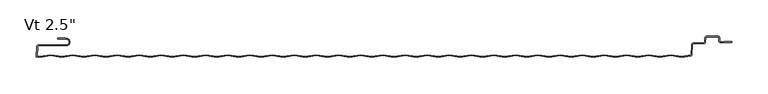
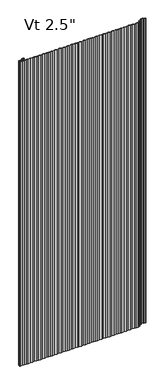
"""IFC4 building model written with IfcOpenShell, lengths in millimetres: plate geometry."""

from ifc_helpers import new_model, si_unit, point, frame, origin, place, context, project, spatial, polyline, circle_curve, ellipse_curve, trimmed, source, transform, mapped, element, save
from ifc_brep_helpers import plane_surface, cylinder_surface, revolved_surface, extruded_surface, advanced_brep


def plate_575d542c(model_context):
    return source(origin(), model_context, "Body", "AdvancedBrep", [
        advanced_brep(
        [(-480.4252049, -38.1, 2400.0), (-480.4252049, -39.6875, 2400.0), (-469.1142674, -39.6875, 2400.0), (-469.1142674, -47.625, 2400.0), (-507.2975721, -47.625, 2400.0), (-509.6755586, -49.881625, 2400.0), (-510.41832, -64.0543553, 2400.0), (-506.0646686, -64.7509395, 2400.0), (-490.8246686, -62.3125395, 2400.0), (-475.5846686, -64.7509395, 2400.0), (-460.3446686, -62.3125395, 2400.0), (-445.1046686, -64.7509395, 2400.0), (-429.8646686, -62.3125395, 2400.0), (-414.6246686, -64.7509395, 2400.0), (-399.3846686, -62.3125395, 2400.0), (-384.1446686, -64.7509395, 2400.0), (-368.9046686, -62.3125395, 2400.0), (-353.6646686, -64.7509395, 2400.0), (-338.4246686, -62.3125395, 2400.0), (-323.1846686, -64.7509395, 2400.0), (-307.9446686, -62.3125395, 2400.0), (-292.7046686, -64.7509395, 2400.0), (-277.4646686, -62.3125395, 2400.0), (-262.2246686, -64.7509395, 2400.0), (-246.9846686, -62.3125395, 2400.0), (-231.7446686, -64.7509395, 2400.0), (-216.5046686, -62.3125395, 2400.0), (-201.2646686, -64.7509395, 2400.0), (-186.0246686, -62.3125395, 2400.0), (-170.7846686, -64.7509395, 2400.0), (-155.5446686, -62.3125395, 2400.0), (-140.3046686, -64.7509395, 2400.0), (-125.0646686, -62.3125395, 2400.0), (-109.8246686, -64.7509395, 2400.0), (-94.5846686, -62.3125395, 2400.0), (-79.3446686, -64.7509395, 2400.0), (-64.1046686, -62.3125395, 2400.0), (-48.8646686, -64.7509395, 2400.0), (-33.6246686, -62.3125395, 2400.0), (-18.3846686, -64.7509395, 2400.0), (-3.1446686, -62.3125395, 2400.0), (12.0953314, -64.7509395, 2400.0), (27.3353314, -62.3125395, 2400.0), (42.5753314, -64.7509395, 2400.0), (57.8153314, -62.3125395, 2400.0), (73.0553314, -64.7509395, 2400.0), (88.2953314, -62.3125395, 2400.0), (103.5353314, -64.7509395, 2400.0), (118.7753314, -62.3125395, 2400.0), (134.0153314, -64.7509395, 2400.0), (149.2553314, -62.3125395, 2400.0), (164.4953314, -64.7509395, 2400.0), (179.7353314, -62.3125395, 2400.0), (194.9753314, -64.7509395, 2400.0), (210.2153314, -62.3125395, 2400.0), (225.4553314, -64.7509395, 2400.0), (240.6953314, -62.3125395, 2400.0), (255.9353314, -64.7509395, 2400.0), (271.1753314, -62.3125395, 2400.0), (286.4153314, -64.7509395, 2400.0), (301.6553314, -62.3125395, 2400.0), (316.8953314, -64.7509395, 2400.0), (332.1353314, -62.3125395, 2400.0), (347.3753314, -64.7509395, 2400.0), (362.6153314, -62.3125395, 2400.0), (377.6527639, -64.7185287, 2400.0), (390.0944828, -62.7278537, 2400.0), (391.4289973, -61.243375, 2400.0), (392.1470603, -47.5419167, 2400.0), (393.7323847, -46.0375, 2400.0), (407.8886911, -46.0375, 2400.0), (410.2666776, -43.780875, 2400.0), (410.5687539, -38.0169167, 2400.0), (412.1540783, -36.5125, 2400.0), (427.0294826, -36.5125, 2400.0), (428.6169826, -38.1, 2400.0), (428.6169826, -42.2671875, 2400.0), (430.9982326, -44.6484375, 2400.0), (445.4898532, -44.6484375, 2400.0), (445.4898532, -42.8546875, 2400.0), (435.7607326, -42.8546875, 2400.0), (435.7607326, -43.6484375, 2400.0), (430.9982326, -43.6484375, 2400.0), (429.6169826, -42.2671875, 2400.0), (429.6169826, -38.1, 2400.0), (427.0294826, -35.5125, 2400.0), (412.1540783, -35.5125, 2400.0), (409.5701244, -37.9645807, 2400.0), (409.2680481, -43.728539, 2400.0), (407.8886911, -45.0375, 2400.0), (393.7323847, -45.0375, 2400.0), (391.1484307, -47.4895807, 2400.0), (390.4303677, -61.191039, 2400.0), (389.9364923, -61.740413, 2400.0), (377.6527639, -63.7058096, 2400.0), (362.6153314, -61.2998204, 2400.0), (347.3753314, -63.7382204, 2400.0), (332.1353314, -61.2998204, 2400.0), (316.8953314, -63.7382204, 2400.0), (301.6553314, -61.2998204, 2400.0), (286.4153314, -63.7382204, 2400.0), (271.1753314, -61.2998204, 2400.0), (255.9353314, -63.7382204, 2400.0), (240.6953314, -61.2998204, 2400.0), (225.4553314, -63.7382204, 2400.0), (210.2153314, -61.2998204, 2400.0), (194.9753314, -63.7382204, 2400.0), (179.7353314, -61.2998204, 2400.0), (164.4953314, -63.7382204, 2400.0), (149.2553314, -61.2998204, 2400.0), (134.0153314, -63.7382204, 2400.0), (118.7753314, -61.2998204, 2400.0), (103.5353314, -63.7382204, 2400.0), (88.2953314, -61.2998204, 2400.0), (73.0553314, -63.7382204, 2400.0), (57.8153314, -61.2998204, 2400.0), (42.5753314, -63.7382204, 2400.0), (27.3353314, -61.2998204, 2400.0), (12.0953314, -63.7382204, 2400.0), (-3.1446686, -61.2998204, 2400.0), (-18.3846686, -63.7382204, 2400.0), (-33.6246686, -61.2998204, 2400.0), (-48.8646686, -63.7382204, 2400.0), (-64.1046686, -61.2998204, 2400.0), (-79.3446686, -63.7382204, 2400.0), (-94.5846686, -61.2998204, 2400.0), (-109.8246686, -63.7382204, 2400.0), (-125.0646686, -61.2998204, 2400.0), (-140.3046686, -63.7382204, 2400.0), (-155.5446686, -61.2998204, 2400.0), (-170.7846686, -63.7382204, 2400.0), (-186.0246686, -61.2998204, 2400.0), (-201.2646686, -63.7382204, 2400.0), (-216.5046686, -61.2998204, 2400.0), (-231.7446686, -63.7382204, 2400.0), (-246.9846686, -61.2998204, 2400.0), (-262.2246686, -63.7382204, 2400.0), (-277.4646686, -61.2998204, 2400.0), (-292.7046686, -63.7382204, 2400.0), (-307.9446686, -61.2998204, 2400.0), (-323.1846686, -63.7382204, 2400.0), (-338.4246686, -61.2998204, 2400.0), (-353.6646686, -63.7382204, 2400.0), (-368.9046686, -61.2998204, 2400.0), (-384.1446686, -63.7382204, 2400.0), (-399.3846686, -61.2998204, 2400.0), (-414.6246686, -63.7382204, 2400.0), (-429.8646686, -61.2998204, 2400.0), (-445.1046686, -63.7382204, 2400.0), (-460.3446686, -61.2998204, 2400.0), (-475.5846686, -63.7382204, 2400.0), (-490.8246686, -61.2998204, 2400.0), (-506.0646686, -63.7382204, 2400.0), (-509.3726415, -63.2089447, 2400.0), (-508.6769291, -49.933961, 2400.0), (-507.2975721, -48.625, 2400.0), (-469.1142674, -48.625, 2400.0), (-469.1142674, -38.6875, 2400.0), (-470.7017674, -38.89375, 2400.0), (-470.7017674, -38.1, 2400.0), (-480.4252049, -38.1, 0.0), (-470.7017674, -38.1, 0.0), (-470.7017674, -38.89375, 0.0), (-469.1142674, -38.6875, 0.0), (-469.1142674, -48.625, 0.0), (-507.2975721, -48.625, 0.0), (-508.6769291, -49.933961, 0.0), (-509.3726415, -63.2089447, 0.0), (-506.0646686, -63.7382204, 0.0), (-490.8246686, -61.2998204, 0.0), (-475.5846686, -63.7382204, 0.0), (-460.3446686, -61.2998204, 0.0), (-445.1046686, -63.7382204, 0.0), (-429.8646686, -61.2998204, 0.0), (-414.6246686, -63.7382204, 0.0), (-399.3846686, -61.2998204, 0.0), (-384.1446686, -63.7382204, 0.0), (-368.9046686, -61.2998204, 0.0), (-353.6646686, -63.7382204, 0.0), (-338.4246686, -61.2998204, 0.0), (-323.1846686, -63.7382204, 0.0), (-307.9446686, -61.2998204, 0.0), (-292.7046686, -63.7382204, 0.0), (-277.4646686, -61.2998204, 0.0), (-262.2246686, -63.7382204, 0.0), (-246.9846686, -61.2998204, 0.0), (-231.7446686, -63.7382204, 0.0), (-216.5046686, -61.2998204, 0.0), (-201.2646686, -63.7382204, 0.0), (-186.0246686, -61.2998204, 0.0), (-170.7846686, -63.7382204, 0.0), (-155.5446686, -61.2998204, 0.0), (-140.3046686, -63.7382204, 0.0), (-125.0646686, -61.2998204, 0.0), (-109.8246686, -63.7382204, 0.0), (-94.5846686, -61.2998204, 0.0), (-79.3446686, -63.7382204, 0.0), (-64.1046686, -61.2998204, 0.0), (-48.8646686, -63.7382204, 0.0), (-33.6246686, -61.2998204, 0.0), (-18.3846686, -63.7382204, 0.0), (-3.1446686, -61.2998204, 0.0), (12.0953314, -63.7382204, 0.0), (27.3353314, -61.2998204, 0.0), (42.5753314, -63.7382204, 0.0), (57.8153314, -61.2998204, 0.0), (73.0553314, -63.7382204, 0.0), (88.2953314, -61.2998204, 0.0), (103.5353314, -63.7382204, 0.0), (118.7753314, -61.2998204, 0.0), (134.0153314, -63.7382204, 0.0), (149.2553314, -61.2998204, 0.0), (164.4953314, -63.7382204, 0.0), (179.7353314, -61.2998204, 0.0), (194.9753314, -63.7382204, 0.0), (210.2153314, -61.2998204, 0.0), (225.4553314, -63.7382204, 0.0), (240.6953314, -61.2998204, 0.0), (255.9353314, -63.7382204, 0.0), (271.1753314, -61.2998204, 0.0), (286.4153314, -63.7382204, 0.0), (301.6553314, -61.2998204, 0.0), (316.8953314, -63.7382204, 0.0), (332.1353314, -61.2998204, 0.0), (347.3753314, -63.7382204, 0.0), (362.6153314, -61.2998204, 0.0), (377.6527639, -63.7058096, 0.0), (389.9364923, -61.740413, 0.0), (390.4303677, -61.191039, 0.0), (391.1484307, -47.4895807, 0.0), (393.7323847, -45.0375, 0.0), (407.8886911, -45.0375, 0.0), (409.2680481, -43.728539, 0.0), (409.5701244, -37.9645807, 0.0), (412.1540783, -35.5125, 0.0), (427.0294826, -35.5125, 0.0), (429.6169826, -38.1, 0.0), (429.6169826, -42.2671875, 0.0), (430.9982326, -43.6484375, 0.0), (435.7607326, -43.6484375, 0.0), (435.7607326, -42.8546875, 0.0), (445.4898532, -42.8546875, 0.0), (445.4898532, -44.6484375, 0.0), (430.9982326, -44.6484375, 0.0), (428.6169826, -42.2671875, 0.0), (428.6169826, -38.1, 0.0), (427.0294826, -36.5125, 0.0), (412.1540783, -36.5125, 0.0), (410.5687539, -38.0169167, 0.0), (410.2666776, -43.780875, 0.0), (407.8886911, -46.0375, 0.0), (393.7323847, -46.0375, 0.0), (392.1470603, -47.5419167, 0.0), (391.4289973, -61.243375, 0.0), (390.0944828, -62.7278537, 0.0), (377.6527639, -64.7185287, 0.0), (362.6153314, -62.3125395, 0.0), (347.3753314, -64.7509395, 0.0), (332.1353314, -62.3125395, 0.0), (316.8953314, -64.7509395, 0.0), (301.6553314, -62.3125395, 0.0), (286.4153314, -64.7509395, 0.0), (271.1753314, -62.3125395, 0.0), (255.9353314, -64.7509395, 0.0), (240.6953314, -62.3125395, 0.0), (225.4553314, -64.7509395, 0.0), (210.2153314, -62.3125395, 0.0), (194.9753314, -64.7509395, 0.0), (179.7353314, -62.3125395, 0.0), (164.4953314, -64.7509395, 0.0), (149.2553314, -62.3125395, 0.0), (134.0153314, -64.7509395, 0.0), (118.7753314, -62.3125395, 0.0), (103.5353314, -64.7509395, 0.0), (88.2953314, -62.3125395, 0.0), (73.0553314, -64.7509395, 0.0), (57.8153314, -62.3125395, 0.0), (42.5753314, -64.7509395, 0.0), (27.3353314, -62.3125395, 0.0), (12.0953314, -64.7509395, 0.0), (-3.1446686, -62.3125395, 0.0), (-18.3846686, -64.7509395, 0.0), (-33.6246686, -62.3125395, 0.0), (-48.8646686, -64.7509395, 0.0), (-64.1046686, -62.3125395, 0.0), (-79.3446686, -64.7509395, 0.0), (-94.5846686, -62.3125395, 0.0), (-109.8246686, -64.7509395, 0.0), (-125.0646686, -62.3125395, 0.0), (-140.3046686, -64.7509395, 0.0), (-155.5446686, -62.3125395, 0.0), (-170.7846686, -64.7509395, 0.0), (-186.0246686, -62.3125395, 0.0), (-201.2646686, -64.7509395, 0.0), (-216.5046686, -62.3125395, 0.0), (-231.7446686, -64.7509395, 0.0), (-246.9846686, -62.3125395, 0.0), (-262.2246686, -64.7509395, 0.0), (-277.4646686, -62.3125395, 0.0), (-292.7046686, -64.7509395, 0.0), (-307.9446686, -62.3125395, 0.0), (-323.1846686, -64.7509395, 0.0), (-338.4246686, -62.3125395, 0.0), (-353.6646686, -64.7509395, 0.0), (-368.9046686, -62.3125395, 0.0), (-384.1446686, -64.7509395, 0.0), (-399.3846686, -62.3125395, 0.0), (-414.6246686, -64.7509395, 0.0), (-429.8646686, -62.3125395, 0.0), (-445.1046686, -64.7509395, 0.0), (-460.3446686, -62.3125395, 0.0), (-475.5846686, -64.7509395, 0.0), (-490.8246686, -62.3125395, 0.0), (-506.0646686, -64.7509395, 0.0), (-510.41832, -64.0543553, 0.0), (-509.6755586, -49.881625, 0.0), (-507.2975721, -47.625, 0.0), (-469.1142674, -47.625, 0.0), (-469.1142674, -39.6875, 0.0), (-480.4252049, -39.6875, 0.0)],
        [
            (0, 1, circle_curve(frame((-480.4252049, -38.89375, 2400.0), z_axis=(0.0, 0.0, 1.0), x_axis=(1.0, 0.0, 0.0)), 0.79375)),
            (1, 2),
            (2, 3, circle_curve(frame((-469.1142674, -43.65625, 2400.0), z_axis=(0.0, 0.0, -1.0), x_axis=(1.0, 0.0, 0.0)), 3.96875)),
            (3, 4),
            (4, 5, circle_curve(frame((-507.2975721, -50.00625, 2400.0), z_axis=(0.0, 0.0, 1.0), x_axis=(1.0, 0.0, 0.0)), 2.38125)),
            (5, 6),
            (6, 7),
            (7, 8),
            (8, 9),
            (9, 10),
            (10, 11),
            (11, 12),
            (12, 13),
            (13, 14),
            (14, 15),
            (15, 16),
            (16, 17),
            (17, 18),
            (18, 19),
            (19, 20),
            (20, 21),
            (21, 22),
            (22, 23),
            (23, 24),
            (24, 25),
            (25, 26),
            (26, 27),
            (27, 28),
            (28, 29),
            (29, 30),
            (30, 31),
            (31, 32),
            (32, 33),
            (33, 34),
            (34, 35),
            (35, 36),
            (36, 37),
            (37, 38),
            (38, 39),
            (39, 40),
            (40, 41),
            (41, 42),
            (42, 43),
            (43, 44),
            (44, 45),
            (45, 46),
            (46, 47),
            (47, 48),
            (48, 49),
            (49, 50),
            (50, 51),
            (51, 52),
            (52, 53),
            (53, 54),
            (54, 55),
            (55, 56),
            (56, 57),
            (57, 58),
            (58, 59),
            (59, 60),
            (60, 61),
            (61, 62),
            (62, 63),
            (63, 64),
            (64, 65),
            (65, 66),
            (66, 67, circle_curve(frame((389.8436729, -61.1602917, 2400.0), z_axis=(0.0, 0.0, 1.0), x_axis=(1.0, 0.0, 0.0)), 1.5875)),
            (67, 68),
            (68, 69, circle_curve(frame((393.7323847, -47.625, 2400.0), z_axis=(0.0, 0.0, -1.0), x_axis=(1.0, 0.0, 0.0)), 1.5875)),
            (69, 70),
            (70, 71, circle_curve(frame((407.8886911, -43.65625, 2400.0), z_axis=(0.0, 0.0, 1.0), x_axis=(1.0, 0.0, 0.0)), 2.38125)),
            (71, 72),
            (72, 73, circle_curve(frame((412.1540783, -38.1, 2400.0), z_axis=(0.0, 0.0, -1.0), x_axis=(1.0, 0.0, 0.0)), 1.5875)),
            (73, 74),
            (74, 75, circle_curve(frame((427.0294826, -38.1, 2400.0), z_axis=(0.0, 0.0, -1.0), x_axis=(1.0, 0.0, 0.0)), 1.5875)),
            (75, 76),
            (76, 77, circle_curve(frame((430.9982326, -42.2671875, 2400.0), z_axis=(0.0, 0.0, 1.0), x_axis=(1.0, 0.0, 0.0)), 2.38125)),
            (77, 78),
            (78, 79, ellipse_curve(frame((445.4898532, -43.7515625, 2400.0), z_axis=(0.0, 0.0, 1.0), x_axis=(0.0, 1.0, 0.0)), 0.896875, 0.7852275)),
            (79, 80),
            (80, 81),
            (81, 82),
            (82, 83, circle_curve(frame((430.9982326, -42.2671875, 2400.0), z_axis=(0.0, 0.0, -1.0), x_axis=(1.0, 0.0, 0.0)), 1.38125)),
            (83, 84),
            (84, 85, circle_curve(frame((427.0294826, -38.1, 2400.0), z_axis=(0.0, 0.0, 1.0), x_axis=(1.0, 0.0, 0.0)), 2.5875)),
            (85, 86),
            (86, 87, circle_curve(frame((412.1540783, -38.1, 2400.0), z_axis=(0.0, 0.0, 1.0), x_axis=(1.0, 0.0, 0.0)), 2.5875)),
            (87, 88),
            (88, 89, circle_curve(frame((407.8886911, -43.65625, 2400.0), z_axis=(0.0, 0.0, -1.0), x_axis=(1.0, 0.0, 0.0)), 1.38125)),
            (89, 90),
            (90, 91, circle_curve(frame((393.7323847, -47.625, 2400.0), z_axis=(0.0, 0.0, 1.0), x_axis=(1.0, 0.0, 0.0)), 2.5875)),
            (91, 92),
            (92, 93, circle_curve(frame((389.8436729, -61.1602917, 2400.0), z_axis=(0.0, 0.0, -1.0), x_axis=(1.0, 0.0, 0.0)), 0.5875)),
            (93, 94),
            (94, 95),
            (95, 96),
            (96, 97),
            (97, 98),
            (98, 99),
            (99, 100),
            (100, 101),
            (101, 102),
            (102, 103),
            (103, 104),
            (104, 105),
            (105, 106),
            (106, 107),
            (107, 108),
            (108, 109),
            (109, 110),
            (110, 111),
            (111, 112),
            (112, 113),
            (113, 114),
            (114, 115),
            (115, 116),
            (116, 117),
            (117, 118),
            (118, 119),
            (119, 120),
            (120, 121),
            (121, 122),
            (122, 123),
            (123, 124),
            (124, 125),
            (125, 126),
            (126, 127),
            (127, 128),
            (128, 129),
            (129, 130),
            (130, 131),
            (131, 132),
            (132, 133),
            (133, 134),
            (134, 135),
            (135, 136),
            (136, 137),
            (137, 138),
            (138, 139),
            (139, 140),
            (140, 141),
            (141, 142),
            (142, 143),
            (143, 144),
            (144, 145),
            (145, 146),
            (146, 147),
            (147, 148),
            (148, 149),
            (149, 150),
            (150, 151),
            (151, 152),
            (152, 153),
            (153, 154),
            (154, 155, circle_curve(frame((-507.2975721, -50.00625, 2400.0), z_axis=(0.0, 0.0, -1.0), x_axis=(1.0, 0.0, 0.0)), 1.38125)),
            (155, 156),
            (156, 157, circle_curve(frame((-469.1142674, -43.65625, 2400.0), z_axis=(0.0, 0.0, 1.0), x_axis=(1.0, 0.0, 0.0)), 4.96875)),
            (157, 158),
            (158, 159),
            (159, 0),
            (160, 161),
            (161, 162),
            (162, 163),
            (163, 164, circle_curve(frame((-469.1142674, -43.65625, 0.0), z_axis=(0.0, 0.0, -1.0), x_axis=(1.0, 0.0, 0.0)), 4.96875)),
            (164, 165),
            (165, 166, circle_curve(frame((-507.2975721, -50.00625, 0.0), z_axis=(0.0, 0.0, 1.0), x_axis=(1.0, 0.0, 0.0)), 1.38125)),
            (166, 167),
            (167, 168),
            (168, 169),
            (169, 170),
            (170, 171),
            (171, 172),
            (172, 173),
            (173, 174),
            (174, 175),
            (175, 176),
            (176, 177),
            (177, 178),
            (178, 179),
            (179, 180),
            (180, 181),
            (181, 182),
            (182, 183),
            (183, 184),
            (184, 185),
            (185, 186),
            (186, 187),
            (187, 188),
            (188, 189),
            (189, 190),
            (190, 191),
            (191, 192),
            (192, 193),
            (193, 194),
            (194, 195),
            (195, 196),
            (196, 197),
            (197, 198),
            (198, 199),
            (199, 200),
            (200, 201),
            (201, 202),
            (202, 203),
            (203, 204),
            (204, 205),
            (205, 206),
            (206, 207),
            (207, 208),
            (208, 209),
            (209, 210),
            (210, 211),
            (211, 212),
            (212, 213),
            (213, 214),
            (214, 215),
            (215, 216),
            (216, 217),
            (217, 218),
            (218, 219),
            (219, 220),
            (220, 221),
            (221, 222),
            (222, 223),
            (223, 224),
            (224, 225),
            (225, 226),
            (226, 227),
            (227, 228, circle_curve(frame((389.8436729, -61.1602917, 0.0), z_axis=(0.0, 0.0, 1.0), x_axis=(1.0, 0.0, 0.0)), 0.5875)),
            (228, 229),
            (229, 230, circle_curve(frame((393.7323847, -47.625, 0.0), z_axis=(0.0, 0.0, -1.0), x_axis=(1.0, 0.0, 0.0)), 2.5875)),
            (230, 231),
            (231, 232, circle_curve(frame((407.8886911, -43.65625, 0.0), z_axis=(0.0, 0.0, 1.0), x_axis=(1.0, 0.0, 0.0)), 1.38125)),
            (232, 233),
            (233, 234, circle_curve(frame((412.1540783, -38.1, 0.0), z_axis=(0.0, 0.0, -1.0), x_axis=(1.0, 0.0, 0.0)), 2.5875)),
            (234, 235),
            (235, 236, circle_curve(frame((427.0294826, -38.1, 0.0), z_axis=(0.0, 0.0, -1.0), x_axis=(1.0, 0.0, 0.0)), 2.5875)),
            (236, 237),
            (237, 238, circle_curve(frame((430.9982326, -42.2671875, 0.0), z_axis=(0.0, 0.0, 1.0), x_axis=(1.0, 0.0, 0.0)), 1.38125)),
            (238, 239),
            (239, 240),
            (240, 241),
            (241, 242, ellipse_curve(frame((445.4898532, -43.7515625, 0.0), z_axis=(0.0, 0.0, -1.0), x_axis=(0.0, 1.0, 0.0)), 0.896875, 0.7852275)),
            (242, 243),
            (243, 244, circle_curve(frame((430.9982326, -42.2671875, 0.0), z_axis=(0.0, 0.0, -1.0), x_axis=(1.0, 0.0, 0.0)), 2.38125)),
            (244, 245),
            (245, 246, circle_curve(frame((427.0294826, -38.1, 0.0), z_axis=(0.0, 0.0, 1.0), x_axis=(1.0, 0.0, 0.0)), 1.5875)),
            (246, 247),
            (247, 248, circle_curve(frame((412.1540783, -38.1, 0.0), z_axis=(0.0, 0.0, 1.0), x_axis=(1.0, 0.0, 0.0)), 1.5875)),
            (248, 249),
            (249, 250, circle_curve(frame((407.8886911, -43.65625, 0.0), z_axis=(0.0, 0.0, -1.0), x_axis=(1.0, 0.0, 0.0)), 2.38125)),
            (250, 251),
            (251, 252, circle_curve(frame((393.7323847, -47.625, 0.0), z_axis=(0.0, 0.0, 1.0), x_axis=(1.0, 0.0, 0.0)), 1.5875)),
            (252, 253),
            (253, 254, circle_curve(frame((389.8436729, -61.1602917, 0.0), z_axis=(0.0, 0.0, -1.0), x_axis=(1.0, 0.0, 0.0)), 1.5875)),
            (254, 255),
            (255, 256),
            (256, 257),
            (257, 258),
            (258, 259),
            (259, 260),
            (260, 261),
            (261, 262),
            (262, 263),
            (263, 264),
            (264, 265),
            (265, 266),
            (266, 267),
            (267, 268),
            (268, 269),
            (269, 270),
            (270, 271),
            (271, 272),
            (272, 273),
            (273, 274),
            (274, 275),
            (275, 276),
            (276, 277),
            (277, 278),
            (278, 279),
            (279, 280),
            (280, 281),
            (281, 282),
            (282, 283),
            (283, 284),
            (284, 285),
            (285, 286),
            (286, 287),
            (287, 288),
            (288, 289),
            (289, 290),
            (290, 291),
            (291, 292),
            (292, 293),
            (293, 294),
            (294, 295),
            (295, 296),
            (296, 297),
            (297, 298),
            (298, 299),
            (299, 300),
            (300, 301),
            (301, 302),
            (302, 303),
            (303, 304),
            (304, 305),
            (305, 306),
            (306, 307),
            (307, 308),
            (308, 309),
            (309, 310),
            (310, 311),
            (311, 312),
            (312, 313),
            (313, 314),
            (314, 315),
            (315, 316, circle_curve(frame((-507.2975721, -50.00625, 0.0), z_axis=(0.0, 0.0, -1.0), x_axis=(1.0, 0.0, 0.0)), 2.38125)),
            (316, 317),
            (317, 318, circle_curve(frame((-469.1142674, -43.65625, 0.0), z_axis=(0.0, 0.0, 1.0), x_axis=(1.0, 0.0, 0.0)), 3.96875)),
            (318, 319),
            (319, 160, circle_curve(frame((-480.4252049, -38.89375, 0.0), z_axis=(0.0, 0.0, -1.0), x_axis=(1.0, 0.0, 0.0)), 0.79375)),
            (159, 161),
            (160, 0),
            (319, 1),
            (318, 2),
            (317, 3),
            (316, 4),
            (315, 5),
            (314, 6),
            (68, 252),
            (251, 69),
            (250, 70),
            (249, 71),
            (248, 72),
            (247, 73),
            (154, 166),
            (165, 155),
            (90, 230),
            (229, 91),
            (89, 231),
            (88, 232),
            (87, 233),
            (86, 234),
            (81, 239),
            (238, 82),
            (237, 83),
            (236, 84),
            (246, 74),
            (245, 75),
            (244, 76),
            (243, 77),
            (242, 78),
            (85, 235),
            (164, 156),
            (163, 157),
            (158, 162),
            (80, 240),
            (79, 241),
            (95, 225),
            (224, 96),
            (223, 97),
            (222, 98),
            (221, 99),
            (220, 100),
            (219, 101),
            (218, 102),
            (217, 103),
            (216, 104),
            (215, 105),
            (214, 106),
            (213, 107),
            (212, 108),
            (211, 109),
            (147, 173),
            (172, 148),
            (171, 149),
            (170, 150),
            (169, 151),
            (168, 152),
            (167, 153),
            (313, 7),
            (312, 8),
            (311, 9),
            (310, 10),
            (309, 11),
            (308, 12),
            (36, 284),
            (283, 37),
            (282, 38),
            (50, 270),
            (269, 51),
            (268, 52),
            (267, 53),
            (266, 54),
            (265, 55),
            (264, 56),
            (263, 57),
            (262, 58),
            (261, 59),
            (260, 60),
            (259, 61),
            (258, 62),
            (257, 63),
            (256, 64),
            (65, 255),
            (254, 66),
            (253, 67),
            (92, 228),
            (227, 93),
            (226, 94),
            (123, 197),
            (196, 124),
            (195, 125),
            (194, 126),
            (49, 271),
            (48, 272),
            (47, 273),
            (46, 274),
            (45, 275),
            (44, 276),
            (43, 277),
            (42, 278),
            (41, 279),
            (40, 280),
            (39, 281),
            (122, 198),
            (121, 199),
            (120, 200),
            (119, 201),
            (118, 202),
            (117, 203),
            (116, 204),
            (115, 205),
            (114, 206),
            (113, 207),
            (112, 208),
            (111, 209),
            (110, 210),
            (135, 185),
            (184, 136),
            (183, 137),
            (193, 127),
            (192, 128),
            (191, 129),
            (130, 190),
            (189, 131),
            (188, 132),
            (133, 187),
            (186, 134),
            (22, 298),
            (297, 23),
            (24, 296),
            (295, 25),
            (294, 26),
            (293, 27),
            (292, 28),
            (291, 29),
            (290, 30),
            (289, 31),
            (288, 32),
            (287, 33),
            (286, 34),
            (285, 35),
            (182, 138),
            (181, 139),
            (180, 140),
            (179, 141),
            (178, 142),
            (177, 143),
            (16, 304),
            (303, 17),
            (302, 18),
            (301, 19),
            (300, 20),
            (299, 21),
            (176, 144),
            (175, 145),
            (174, 146),
            (307, 13),
            (306, 14),
            (305, 15),
        ],
        [
            plane_surface(frame((0.00625, -63.5, 2400.0), z_axis=(0.0, 0.0, 1.0), x_axis=(0.0, -1.0, 0.0))),
            plane_surface(frame((0.00625, -63.5, 0.0), z_axis=(0.0, 0.0, -1.0), x_axis=(0.0, -1.0, 0.0))),
            plane_surface(frame((-480.4252049, -38.1, 2400.0), z_axis=(0.0, 1.0, 0.0), x_axis=(0.0, 0.0, -1.0))),
            cylinder_surface(frame((-480.4252049, -38.89375, 2400.0), z_axis=(0.0, 0.0, 1.0), x_axis=(1.0, 0.0, 0.0)), 0.79375),
            plane_surface(frame((-469.1142674, -39.6875, 2400.0), z_axis=(0.0, -1.0, 0.0), x_axis=(0.0, 0.0, -1.0))),
            revolved_surface(polyline([(-465.1455174, -43.65625, 0.0), (-465.1455174, -43.65625, 2400.0)]), (-469.1142674, -43.65625, 2400.0), (0.0, 0.0, -1.0)),
            plane_surface(frame((-507.2975721, -47.625, 2400.0), z_axis=(0.0, 1.0, 0.0), x_axis=(0.0, 0.0, -1.0))),
            cylinder_surface(frame((-507.2975721, -50.00625, 2400.0), z_axis=(0.0, 0.0, 1.0), x_axis=(1.0, 0.0, 0.0)), 2.38125),
            plane_surface(frame((-510.41832, -64.0543553, 2400.0), z_axis=(-0.9986295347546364, 0.05233595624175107, 0.0), x_axis=(0.0, 0.0, -1.0))),
            revolved_surface(polyline([(395.3198847, -47.625, 0.0), (395.3198847, -47.625, 2400.0)]), (393.7323847, -47.625, 2400.0), (0.0, 0.0, -1.0)),
            plane_surface(frame((407.8886911, -46.0375, 2400.0), z_axis=(0.0, -1.0, 0.0), x_axis=(0.0, 0.0, -1.0))),
            cylinder_surface(frame((407.8886911, -43.65625, 2400.0), z_axis=(0.0, 0.0, 1.0), x_axis=(1.0, 0.0, 0.0)), 2.38125),
            plane_surface(frame((410.5687539, -38.0169167, 2400.0), z_axis=(0.9986295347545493, -0.052335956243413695, 0.0), x_axis=(0.0, 0.0, -1.0))),
            revolved_surface(polyline([(413.74157829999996, -38.1, 0.0), (413.74157829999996, -38.1, 2400.0)]), (412.1540783, -38.1, 2400.0), (0.0, 0.0, -1.0)),
            revolved_surface(polyline([(-505.9163221, -50.00625, 0.0), (-505.9163221, -50.00625, 2400.0)]), (-507.2975721, -50.00625, 2400.0), (0.0, 0.0, -1.0)),
            cylinder_surface(frame((393.7323847, -47.625, 2400.0), z_axis=(0.0, 0.0, 1.0), x_axis=(1.0, 0.0, 0.0)), 2.5875),
            plane_surface(frame((393.7323847, -45.0375, 2400.0), z_axis=(0.0, 1.0, 0.0), x_axis=(0.0, 0.0, -1.0))),
            revolved_surface(polyline([(409.26994110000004, -43.65625, 0.0), (409.26994110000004, -43.65625, 2400.0)]), (407.8886911, -43.65625, 2400.0), (0.0, 0.0, -1.0)),
            plane_surface(frame((409.2680481, -43.728539, 2400.0), z_axis=(-0.998629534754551, 0.05233595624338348, 0.0), x_axis=(0.0, 0.0, -1.0))),
            cylinder_surface(frame((412.1540783, -38.1, 2400.0), z_axis=(0.0, 0.0, 1.0), x_axis=(1.0, 0.0, 0.0)), 2.5875),
            plane_surface(frame((430.9982326, -43.6484375, 2400.0), z_axis=(0.0, 1.0, 0.0), x_axis=(0.0, 0.0, -1.0))),
            revolved_surface(polyline([(432.3794826, -42.2671875, 0.0), (432.3794826, -42.2671875, 2400.0)]), (430.9982326, -42.2671875, 2400.0), (0.0, 0.0, -1.0)),
            plane_surface(frame((429.6169826, -38.1, 2400.0), z_axis=(1.0, 0.0, 0.0), x_axis=(0.0, 0.0, -1.0))),
            plane_surface(frame((427.0294826, -36.5125, 2400.0), z_axis=(0.0, -1.0, 0.0), x_axis=(0.0, 0.0, -1.0))),
            revolved_surface(polyline([(428.6169826, -38.1, 0.0), (428.6169826, -38.1, 2400.0)]), (427.0294826, -38.1, 2400.0), (0.0, 0.0, -1.0)),
            plane_surface(frame((428.6169826, -42.2671875, 2400.0), z_axis=(-1.0, 0.0, 0.0), x_axis=(0.0, 0.0, -1.0))),
            cylinder_surface(frame((430.9982326, -42.2671875, 2400.0), z_axis=(0.0, 0.0, 1.0), x_axis=(1.0, 0.0, 0.0)), 2.38125),
            plane_surface(frame((445.4898532, -44.6484375, 2400.0), z_axis=(0.0, -1.0, 0.0), x_axis=(0.0, 0.0, -1.0))),
            plane_surface(frame((412.1540783, -35.5125, 2400.0), z_axis=(0.0, 1.0, 0.0), x_axis=(0.0, 0.0, -1.0))),
            cylinder_surface(frame((427.0294826, -38.1, 2400.0), z_axis=(0.0, 0.0, 1.0), x_axis=(1.0, 0.0, 0.0)), 2.5875),
            plane_surface(frame((-469.1142674, -48.625, 2400.0), z_axis=(0.0, -1.0, 0.0), x_axis=(0.0, 0.0, -1.0))),
            cylinder_surface(frame((-469.1142674, -43.65625, 2400.0), z_axis=(0.0, 0.0, 1.0), x_axis=(1.0, 0.0, 0.0)), 4.96875),
            plane_surface(frame((-470.7017674, -38.1, 2400.0), z_axis=(1.0, 0.0, 0.0), x_axis=(0.0, 0.0, -1.0))),
            plane_surface(frame((-470.7017674, -38.89375, 2400.0), z_axis=(-0.12883844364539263, 0.9916655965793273, 0.0), x_axis=(0.0, 0.0, -1.0))),
            plane_surface(frame((435.7607326, -43.6484375, 2400.0), z_axis=(-1.0, 0.0, 0.0), x_axis=(0.0, 0.0, -1.0))),
            plane_surface(frame((435.7607326, -42.8546875, 2400.0), z_axis=(0.0, 1.0, 0.0), x_axis=(0.0, 0.0, -1.0))),
            extruded_surface(trimmed(ellipse_curve(frame((445.4898532, -43.7515625, 2400.0), z_axis=(0.0, 0.0, -1.0), x_axis=(0.0, 1.0, 0.0)), 0.896875, 0.7852275), [point((445.4898532, -42.8546875, 2400.0))], [point((445.4898532, -44.6484375, 2400.0))], True, "CARTESIAN"), (0.0, 0.0, -2400.0), 2400.0),
            plane_surface(frame((347.3753314, -63.7382204, 2400.0), z_axis=(-0.15799050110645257, 0.9874406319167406, 0.0), x_axis=(0.0, 0.0, -1.0))),
            plane_surface(frame((332.1353314, -61.2998204, 2400.0), z_axis=(0.157990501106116, 0.9874406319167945, 0.0), x_axis=(0.0, 0.0, -1.0))),
            plane_surface(frame((316.8953314, -63.7382204, 2400.0), z_axis=(-0.15799050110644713, 0.9874406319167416, 0.0), x_axis=(0.0, 0.0, -1.0))),
            plane_surface(frame((301.6553314, -61.2998204, 2400.0), z_axis=(0.157990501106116, 0.9874406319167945, 0.0), x_axis=(0.0, 0.0, -1.0))),
            plane_surface(frame((286.4153314, -63.7382204, 2400.0), z_axis=(-0.15799050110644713, 0.9874406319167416, 0.0), x_axis=(0.0, 0.0, -1.0))),
            plane_surface(frame((271.1753314, -61.2998204, 2400.0), z_axis=(0.157990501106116, 0.9874406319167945, 0.0), x_axis=(0.0, 0.0, -1.0))),
            plane_surface(frame((255.9353314, -63.7382204, 2400.0), z_axis=(-0.15799050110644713, 0.9874406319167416, 0.0), x_axis=(0.0, 0.0, -1.0))),
            plane_surface(frame((240.6953314, -61.2998204, 2400.0), z_axis=(0.15799050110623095, 0.9874406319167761, 0.0), x_axis=(0.0, 0.0, -1.0))),
            plane_surface(frame((225.4553314, -63.7382204, 2400.0), z_axis=(-0.15799050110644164, 0.9874406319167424, 0.0), x_axis=(0.0, 0.0, -1.0))),
            plane_surface(frame((210.2153314, -61.2998204, 2400.0), z_axis=(0.15799050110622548, 0.987440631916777, 0.0), x_axis=(0.0, 0.0, -1.0))),
            plane_surface(frame((194.9753314, -63.7382204, 2400.0), z_axis=(-0.15799050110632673, 0.9874406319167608, 0.0), x_axis=(0.0, 0.0, -1.0))),
            plane_surface(frame((179.7353314, -61.2998204, 2400.0), z_axis=(0.15799050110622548, 0.987440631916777, 0.0), x_axis=(0.0, 0.0, -1.0))),
            plane_surface(frame((164.4953314, -63.7382204, 2400.0), z_axis=(-0.15799050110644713, 0.9874406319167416, 0.0), x_axis=(0.0, 0.0, -1.0))),
            plane_surface(frame((149.2553314, -61.2998204, 2400.0), z_axis=(0.15799050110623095, 0.9874406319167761, 0.0), x_axis=(0.0, 0.0, -1.0))),
            plane_surface(frame((-445.1046686, -63.7382204, 2400.0), z_axis=(-0.15799050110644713, 0.9874406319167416, 0.0), x_axis=(0.0, 0.0, -1.0))),
            plane_surface(frame((-460.3446686, -61.2998204, 2400.0), z_axis=(0.15799050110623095, 0.9874406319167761, 0.0), x_axis=(0.0, 0.0, -1.0))),
            plane_surface(frame((-475.5846686, -63.7382204, 2400.0), z_axis=(-0.15799050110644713, 0.9874406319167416, 0.0), x_axis=(0.0, 0.0, -1.0))),
            plane_surface(frame((-490.8246686, -61.2998204, 2400.0), z_axis=(0.157990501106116, 0.9874406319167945, 0.0), x_axis=(0.0, 0.0, -1.0))),
            plane_surface(frame((-506.0646686, -63.7382204, 2400.0), z_axis=(-0.15799050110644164, 0.9874406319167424, 0.0), x_axis=(0.0, 0.0, -1.0))),
            plane_surface(frame((-509.3726415, -63.2089447, 2400.0), z_axis=(0.1579905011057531, 0.9874406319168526, 0.0), x_axis=(0.0, 0.0, -1.0))),
            plane_surface(frame((-506.0646686, -64.7509395, 2400.0), z_axis=(-0.15799050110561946, -0.9874406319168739, 0.0), x_axis=(0.0, 0.0, -1.0))),
            plane_surface(frame((-490.8246686, -62.3125395, 2400.0), z_axis=(0.15799050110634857, -0.9874406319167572, 0.0), x_axis=(0.0, 0.0, -1.0))),
            plane_surface(frame((-475.5846686, -64.7509395, 2400.0), z_axis=(-0.15799050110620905, -0.9874406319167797, 0.0), x_axis=(0.0, 0.0, -1.0))),
            plane_surface(frame((-460.3446686, -62.3125395, 2400.0), z_axis=(0.15799050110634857, -0.9874406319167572, 0.0), x_axis=(0.0, 0.0, -1.0))),
            plane_surface(frame((-445.1046686, -64.7509395, 2400.0), z_axis=(-0.15799050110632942, -0.9874406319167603, 0.0), x_axis=(0.0, 0.0, -1.0))),
            plane_surface(frame((-429.8646686, -62.3125395, 2400.0), z_axis=(0.15799050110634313, -0.9874406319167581, 0.0), x_axis=(0.0, 0.0, -1.0))),
            plane_surface(frame((-48.8646686, -64.7509395, 2400.0), z_axis=(-0.15799050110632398, -0.9874406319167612, 0.0), x_axis=(0.0, 0.0, -1.0))),
            plane_surface(frame((-33.6246686, -62.3125395, 2400.0), z_axis=(0.15799050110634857, -0.9874406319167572, 0.0), x_axis=(0.0, 0.0, -1.0))),
            plane_surface(frame((164.4953314, -64.7509395, 2400.0), z_axis=(-0.15799050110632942, -0.9874406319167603, 0.0), x_axis=(0.0, 0.0, -1.0))),
            plane_surface(frame((179.7353314, -62.3125395, 2400.0), z_axis=(0.15799050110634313, -0.9874406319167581, 0.0), x_axis=(0.0, 0.0, -1.0))),
            plane_surface(frame((194.9753314, -64.7509395, 2400.0), z_axis=(-0.15799050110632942, -0.9874406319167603, 0.0), x_axis=(0.0, 0.0, -1.0))),
            plane_surface(frame((210.2153314, -62.3125395, 2400.0), z_axis=(0.1579905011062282, -0.9874406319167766, 0.0), x_axis=(0.0, 0.0, -1.0))),
            plane_surface(frame((225.4553314, -64.7509395, 2400.0), z_axis=(-0.15799050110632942, -0.9874406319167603, 0.0), x_axis=(0.0, 0.0, -1.0))),
            plane_surface(frame((240.6953314, -62.3125395, 2400.0), z_axis=(0.15799050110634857, -0.9874406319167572, 0.0), x_axis=(0.0, 0.0, -1.0))),
            plane_surface(frame((255.9353314, -64.7509395, 2400.0), z_axis=(-0.15799050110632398, -0.9874406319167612, 0.0), x_axis=(0.0, 0.0, -1.0))),
            plane_surface(frame((271.1753314, -62.3125395, 2400.0), z_axis=(0.15799050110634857, -0.9874406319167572, 0.0), x_axis=(0.0, 0.0, -1.0))),
            plane_surface(frame((286.4153314, -64.7509395, 2400.0), z_axis=(-0.15799050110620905, -0.9874406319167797, 0.0), x_axis=(0.0, 0.0, -1.0))),
            plane_surface(frame((301.6553314, -62.3125395, 2400.0), z_axis=(0.15799050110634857, -0.9874406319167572, 0.0), x_axis=(0.0, 0.0, -1.0))),
            plane_surface(frame((316.8953314, -64.7509395, 2400.0), z_axis=(-0.15799050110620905, -0.9874406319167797, 0.0), x_axis=(0.0, 0.0, -1.0))),
            plane_surface(frame((332.1353314, -62.3125395, 2400.0), z_axis=(0.15799050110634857, -0.9874406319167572, 0.0), x_axis=(0.0, 0.0, -1.0))),
            plane_surface(frame((347.3753314, -64.7509395, 2400.0), z_axis=(-0.15799050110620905, -0.9874406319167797, 0.0), x_axis=(0.0, 0.0, -1.0))),
            plane_surface(frame((362.6153314, -62.3125395, 2400.0), z_axis=(0.15799050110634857, -0.9874406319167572, 0.0), x_axis=(0.0, 0.0, -1.0))),
            plane_surface(frame((390.0944828, -62.7278537, 2400.0), z_axis=(0.15799050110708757, -0.987440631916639, 0.0), x_axis=(0.0, 0.0, -1.0))),
            cylinder_surface(frame((389.8436729, -61.1602917, 2400.0), z_axis=(0.0, 0.0, 1.0), x_axis=(1.0, 0.0, 0.0)), 1.5875),
            revolved_surface(polyline([(390.4311729, -61.1602917, 0.0), (390.4311729, -61.1602917, 2400.0)]), (389.8436729, -61.1602917, 2400.0), (0.0, 0.0, -1.0)),
            plane_surface(frame((377.6527639, -63.7058096, 2400.0), z_axis=(-0.15799050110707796, 0.9874406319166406, 0.0), x_axis=(0.0, 0.0, -1.0))),
            plane_surface(frame((-79.3446686, -63.7382204, 2400.0), z_axis=(-0.15799050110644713, 0.9874406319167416, 0.0), x_axis=(0.0, 0.0, -1.0))),
            plane_surface(frame((-94.5846686, -61.2998204, 2400.0), z_axis=(0.157990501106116, 0.9874406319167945, 0.0), x_axis=(0.0, 0.0, -1.0))),
            plane_surface(frame((-109.8246686, -63.7382204, 2400.0), z_axis=(-0.15799050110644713, 0.9874406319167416, 0.0), x_axis=(0.0, 0.0, -1.0))),
            plane_surface(frame((149.2553314, -62.3125395, 2400.0), z_axis=(0.15799050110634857, -0.9874406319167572, 0.0), x_axis=(0.0, 0.0, -1.0))),
            plane_surface(frame((134.0153314, -64.7509395, 2400.0), z_axis=(-0.15799050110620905, -0.9874406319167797, 0.0), x_axis=(0.0, 0.0, -1.0))),
            plane_surface(frame((118.7753314, -62.3125395, 2400.0), z_axis=(0.15799050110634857, -0.9874406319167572, 0.0), x_axis=(0.0, 0.0, -1.0))),
            plane_surface(frame((103.5353314, -64.7509395, 2400.0), z_axis=(-0.15799050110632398, -0.9874406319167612, 0.0), x_axis=(0.0, 0.0, -1.0))),
            plane_surface(frame((88.2953314, -62.3125395, 2400.0), z_axis=(0.15799050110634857, -0.9874406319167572, 0.0), x_axis=(0.0, 0.0, -1.0))),
            plane_surface(frame((73.0553314, -64.7509395, 2400.0), z_axis=(-0.15799050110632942, -0.9874406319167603, 0.0), x_axis=(0.0, 0.0, -1.0))),
            plane_surface(frame((57.8153314, -62.3125395, 2400.0), z_axis=(0.1579905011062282, -0.9874406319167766, 0.0), x_axis=(0.0, 0.0, -1.0))),
            plane_surface(frame((42.5753314, -64.7509395, 2400.0), z_axis=(-0.15799050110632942, -0.9874406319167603, 0.0), x_axis=(0.0, 0.0, -1.0))),
            plane_surface(frame((27.3353314, -62.3125395, 2400.0), z_axis=(0.15799050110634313, -0.9874406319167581, 0.0), x_axis=(0.0, 0.0, -1.0))),
            plane_surface(frame((12.0953314, -64.7509395, 2400.0), z_axis=(-0.15799050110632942, -0.9874406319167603, 0.0), x_axis=(0.0, 0.0, -1.0))),
            plane_surface(frame((-3.1446686, -62.3125395, 2400.0), z_axis=(0.15799050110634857, -0.9874406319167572, 0.0), x_axis=(0.0, 0.0, -1.0))),
            plane_surface(frame((-18.3846686, -64.7509395, 2400.0), z_axis=(-0.15799050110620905, -0.9874406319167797, 0.0), x_axis=(0.0, 0.0, -1.0))),
            plane_surface(frame((-64.1046686, -61.2998204, 2400.0), z_axis=(0.15799050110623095, 0.9874406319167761, 0.0), x_axis=(0.0, 0.0, -1.0))),
            plane_surface(frame((-48.8646686, -63.7382204, 2400.0), z_axis=(-0.15799050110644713, 0.9874406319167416, 0.0), x_axis=(0.0, 0.0, -1.0))),
            plane_surface(frame((-33.6246686, -61.2998204, 2400.0), z_axis=(0.157990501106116, 0.9874406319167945, 0.0), x_axis=(0.0, 0.0, -1.0))),
            plane_surface(frame((-18.3846686, -63.7382204, 2400.0), z_axis=(-0.15799050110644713, 0.9874406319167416, 0.0), x_axis=(0.0, 0.0, -1.0))),
            plane_surface(frame((-3.1446686, -61.2998204, 2400.0), z_axis=(0.15799050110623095, 0.9874406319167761, 0.0), x_axis=(0.0, 0.0, -1.0))),
            plane_surface(frame((12.0953314, -63.7382204, 2400.0), z_axis=(-0.15799050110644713, 0.9874406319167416, 0.0), x_axis=(0.0, 0.0, -1.0))),
            plane_surface(frame((27.3353314, -61.2998204, 2400.0), z_axis=(0.15799050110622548, 0.987440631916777, 0.0), x_axis=(0.0, 0.0, -1.0))),
            plane_surface(frame((42.5753314, -63.7382204, 2400.0), z_axis=(-0.15799050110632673, 0.9874406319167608, 0.0), x_axis=(0.0, 0.0, -1.0))),
            plane_surface(frame((57.8153314, -61.2998204, 2400.0), z_axis=(0.15799050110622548, 0.987440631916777, 0.0), x_axis=(0.0, 0.0, -1.0))),
            plane_surface(frame((73.0553314, -63.7382204, 2400.0), z_axis=(-0.15799050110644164, 0.9874406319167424, 0.0), x_axis=(0.0, 0.0, -1.0))),
            plane_surface(frame((88.2953314, -61.2998204, 2400.0), z_axis=(0.15799050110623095, 0.9874406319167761, 0.0), x_axis=(0.0, 0.0, -1.0))),
            plane_surface(frame((103.5353314, -63.7382204, 2400.0), z_axis=(-0.15799050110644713, 0.9874406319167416, 0.0), x_axis=(0.0, 0.0, -1.0))),
            plane_surface(frame((118.7753314, -61.2998204, 2400.0), z_axis=(0.157990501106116, 0.9874406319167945, 0.0), x_axis=(0.0, 0.0, -1.0))),
            plane_surface(frame((134.0153314, -63.7382204, 2400.0), z_axis=(-0.15799050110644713, 0.9874406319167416, 0.0), x_axis=(0.0, 0.0, -1.0))),
            plane_surface(frame((-508.6769291, -49.933961, 2400.0), z_axis=(0.9986295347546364, -0.05233595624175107, 0.0), x_axis=(0.0, 0.0, -1.0))),
            plane_surface(frame((-262.2246686, -63.7382204, 2400.0), z_axis=(-0.15799050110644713, 0.9874406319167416, 0.0), x_axis=(0.0, 0.0, -1.0))),
            plane_surface(frame((392.1470603, -47.5419167, 2400.0), z_axis=(0.9986295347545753, -0.052335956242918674, 0.0), x_axis=(0.0, 0.0, -1.0))),
            plane_surface(frame((390.4303677, -61.191039, 2400.0), z_axis=(-0.9986295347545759, 0.05233595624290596, 0.0), x_axis=(0.0, 0.0, -1.0))),
            plane_surface(frame((377.6527639, -64.7185287, 2400.0), z_axis=(-0.15799050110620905, -0.9874406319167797, 0.0), x_axis=(0.0, 0.0, -1.0))),
            plane_surface(frame((362.6153314, -61.2998204, 2400.0), z_axis=(0.15799050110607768, 0.9874406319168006, 0.0), x_axis=(0.0, 0.0, -1.0))),
            plane_surface(frame((-277.4646686, -61.2998204, 2400.0), z_axis=(0.15799050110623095, 0.9874406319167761, 0.0), x_axis=(0.0, 0.0, -1.0))),
            plane_surface(frame((-125.0646686, -61.2998204, 2400.0), z_axis=(0.15799050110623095, 0.9874406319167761, 0.0), x_axis=(0.0, 0.0, -1.0))),
            plane_surface(frame((-140.3046686, -63.7382204, 2400.0), z_axis=(-0.15799050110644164, 0.9874406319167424, 0.0), x_axis=(0.0, 0.0, -1.0))),
            plane_surface(frame((-155.5446686, -61.2998204, 2400.0), z_axis=(0.15799050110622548, 0.987440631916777, 0.0), x_axis=(0.0, 0.0, -1.0))),
            plane_surface(frame((-186.0246686, -61.2998204, 2400.0), z_axis=(0.15799050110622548, 0.987440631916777, 0.0), x_axis=(0.0, 0.0, -1.0))),
            plane_surface(frame((-170.7846686, -63.7382204, 2400.0), z_axis=(-0.15799050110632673, 0.9874406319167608, 0.0), x_axis=(0.0, 0.0, -1.0))),
            plane_surface(frame((-201.2646686, -63.7382204, 2400.0), z_axis=(-0.15799050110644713, 0.9874406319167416, 0.0), x_axis=(0.0, 0.0, -1.0))),
            plane_surface(frame((-231.7446686, -63.7382204, 2400.0), z_axis=(-0.15799050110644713, 0.9874406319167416, 0.0), x_axis=(0.0, 0.0, -1.0))),
            plane_surface(frame((-246.9846686, -61.2998204, 2400.0), z_axis=(0.157990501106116, 0.9874406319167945, 0.0), x_axis=(0.0, 0.0, -1.0))),
            plane_surface(frame((-216.5046686, -61.2998204, 2400.0), z_axis=(0.15799050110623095, 0.9874406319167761, 0.0), x_axis=(0.0, 0.0, -1.0))),
            plane_surface(frame((-262.2246686, -64.7509395, 2400.0), z_axis=(-0.15799050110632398, -0.9874406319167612, 0.0), x_axis=(0.0, 0.0, -1.0))),
            plane_surface(frame((-231.7446686, -64.7509395, 2400.0), z_axis=(-0.15799050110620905, -0.9874406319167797, 0.0), x_axis=(0.0, 0.0, -1.0))),
            plane_surface(frame((-216.5046686, -62.3125395, 2400.0), z_axis=(0.15799050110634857, -0.9874406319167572, 0.0), x_axis=(0.0, 0.0, -1.0))),
            plane_surface(frame((-201.2646686, -64.7509395, 2400.0), z_axis=(-0.15799050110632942, -0.9874406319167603, 0.0), x_axis=(0.0, 0.0, -1.0))),
            plane_surface(frame((-186.0246686, -62.3125395, 2400.0), z_axis=(0.15799050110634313, -0.9874406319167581, 0.0), x_axis=(0.0, 0.0, -1.0))),
            plane_surface(frame((-170.7846686, -64.7509395, 2400.0), z_axis=(-0.15799050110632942, -0.9874406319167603, 0.0), x_axis=(0.0, 0.0, -1.0))),
            plane_surface(frame((-155.5446686, -62.3125395, 2400.0), z_axis=(0.1579905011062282, -0.9874406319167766, 0.0), x_axis=(0.0, 0.0, -1.0))),
            plane_surface(frame((-140.3046686, -64.7509395, 2400.0), z_axis=(-0.15799050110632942, -0.9874406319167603, 0.0), x_axis=(0.0, 0.0, -1.0))),
            plane_surface(frame((-125.0646686, -62.3125395, 2400.0), z_axis=(0.15799050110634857, -0.9874406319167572, 0.0), x_axis=(0.0, 0.0, -1.0))),
            plane_surface(frame((-109.8246686, -64.7509395, 2400.0), z_axis=(-0.15799050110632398, -0.9874406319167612, 0.0), x_axis=(0.0, 0.0, -1.0))),
            plane_surface(frame((-94.5846686, -62.3125395, 2400.0), z_axis=(0.15799050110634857, -0.9874406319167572, 0.0), x_axis=(0.0, 0.0, -1.0))),
            plane_surface(frame((-79.3446686, -64.7509395, 2400.0), z_axis=(-0.15799050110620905, -0.9874406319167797, 0.0), x_axis=(0.0, 0.0, -1.0))),
            plane_surface(frame((-64.1046686, -62.3125395, 2400.0), z_axis=(0.15799050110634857, -0.9874406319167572, 0.0), x_axis=(0.0, 0.0, -1.0))),
            plane_surface(frame((-292.7046686, -63.7382204, 2400.0), z_axis=(-0.15799050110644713, 0.9874406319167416, 0.0), x_axis=(0.0, 0.0, -1.0))),
            plane_surface(frame((-307.9446686, -61.2998204, 2400.0), z_axis=(0.15799050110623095, 0.9874406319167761, 0.0), x_axis=(0.0, 0.0, -1.0))),
            plane_surface(frame((-323.1846686, -63.7382204, 2400.0), z_axis=(-0.15799050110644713, 0.9874406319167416, 0.0), x_axis=(0.0, 0.0, -1.0))),
            plane_surface(frame((-338.4246686, -61.2998204, 2400.0), z_axis=(0.157990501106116, 0.9874406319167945, 0.0), x_axis=(0.0, 0.0, -1.0))),
            plane_surface(frame((-353.6646686, -63.7382204, 2400.0), z_axis=(-0.15799050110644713, 0.9874406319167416, 0.0), x_axis=(0.0, 0.0, -1.0))),
            plane_surface(frame((-368.9046686, -61.2998204, 2400.0), z_axis=(0.15799050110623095, 0.9874406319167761, 0.0), x_axis=(0.0, 0.0, -1.0))),
            plane_surface(frame((-353.6646686, -64.7509395, 2400.0), z_axis=(-0.15799050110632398, -0.9874406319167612, 0.0), x_axis=(0.0, 0.0, -1.0))),
            plane_surface(frame((-338.4246686, -62.3125395, 2400.0), z_axis=(0.15799050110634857, -0.9874406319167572, 0.0), x_axis=(0.0, 0.0, -1.0))),
            plane_surface(frame((-323.1846686, -64.7509395, 2400.0), z_axis=(-0.15799050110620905, -0.9874406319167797, 0.0), x_axis=(0.0, 0.0, -1.0))),
            plane_surface(frame((-307.9446686, -62.3125395, 2400.0), z_axis=(0.15799050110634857, -0.9874406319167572, 0.0), x_axis=(0.0, 0.0, -1.0))),
            plane_surface(frame((-292.7046686, -64.7509395, 2400.0), z_axis=(-0.15799050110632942, -0.9874406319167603, 0.0), x_axis=(0.0, 0.0, -1.0))),
            plane_surface(frame((-277.4646686, -62.3125395, 2400.0), z_axis=(0.15799050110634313, -0.9874406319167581, 0.0), x_axis=(0.0, 0.0, -1.0))),
            plane_surface(frame((-384.1446686, -63.7382204, 2400.0), z_axis=(-0.15799050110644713, 0.9874406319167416, 0.0), x_axis=(0.0, 0.0, -1.0))),
            plane_surface(frame((-399.3846686, -61.2998204, 2400.0), z_axis=(0.157990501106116, 0.9874406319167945, 0.0), x_axis=(0.0, 0.0, -1.0))),
            plane_surface(frame((-414.6246686, -63.7382204, 2400.0), z_axis=(-0.15799050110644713, 0.9874406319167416, 0.0), x_axis=(0.0, 0.0, -1.0))),
            plane_surface(frame((-429.8646686, -61.2998204, 2400.0), z_axis=(0.15799050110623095, 0.9874406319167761, 0.0), x_axis=(0.0, 0.0, -1.0))),
            plane_surface(frame((-414.6246686, -64.7509395, 2400.0), z_axis=(-0.15799050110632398, -0.9874406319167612, 0.0), x_axis=(0.0, 0.0, -1.0))),
            plane_surface(frame((-399.3846686, -62.3125395, 2400.0), z_axis=(0.15799050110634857, -0.9874406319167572, 0.0), x_axis=(0.0, 0.0, -1.0))),
            plane_surface(frame((-384.1446686, -64.7509395, 2400.0), z_axis=(-0.15799050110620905, -0.9874406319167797, 0.0), x_axis=(0.0, 0.0, -1.0))),
            plane_surface(frame((-368.9046686, -62.3125395, 2400.0), z_axis=(0.15799050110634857, -0.9874406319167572, 0.0), x_axis=(0.0, 0.0, -1.0))),
            plane_surface(frame((-246.9846686, -62.3125395, 2400.0), z_axis=(0.15799050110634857, -0.9874406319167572, 0.0), x_axis=(0.0, 0.0, -1.0))),
        ],
        [
            (0, [[1, 2, 3, 4, 5, 6, 7, 8, 9, 10, 11, 12, 13, 14, 15, 16, 17, 18, 19, 20, 21, 22, 23, 24, 25, 26, 27, 28, 29, 30, 31, 32, 33, 34, 35, 36, 37, 38, 39, 40, 41, 42, 43, 44, 45, 46, 47, 48, 49, 50, 51, 52, 53, 54, 55, 56, 57, 58, 59, 60, 61, 62, 63, 64, 65, 66, 67, 68, 69, 70, 71, 72, 73, 74, 75, 76, 77, 78, 79, 80, 81, 82, 83, 84, 85, 86, 87, 88, 89, 90, 91, 92, 93, 94, 95, 96, 97, 98, 99, 100, 101, 102, 103, 104, 105, 106, 107, 108, 109, 110, 111, 112, 113, 114, 115, 116, 117, 118, 119, 120, 121, 122, 123, 124, 125, 126, 127, 128, 129, 130, 131, 132, 133, 134, 135, 136, 137, 138, 139, 140, 141, 142, 143, 144, 145, 146, 147, 148, 149, 150, 151, 152, 153, 154, 155, 156, 157, 158, 159, 160]]),
            (1, [[161, 162, 163, 164, 165, 166, 167, 168, 169, 170, 171, 172, 173, 174, 175, 176, 177, 178, 179, 180, 181, 182, 183, 184, 185, 186, 187, 188, 189, 190, 191, 192, 193, 194, 195, 196, 197, 198, 199, 200, 201, 202, 203, 204, 205, 206, 207, 208, 209, 210, 211, 212, 213, 214, 215, 216, 217, 218, 219, 220, 221, 222, 223, 224, 225, 226, 227, 228, 229, 230, 231, 232, 233, 234, 235, 236, 237, 238, 239, 240, 241, 242, 243, 244, 245, 246, 247, 248, 249, 250, 251, 252, 253, 254, 255, 256, 257, 258, 259, 260, 261, 262, 263, 264, 265, 266, 267, 268, 269, 270, 271, 272, 273, 274, 275, 276, 277, 278, 279, 280, 281, 282, 283, 284, 285, 286, 287, 288, 289, 290, 291, 292, 293, 294, 295, 296, 297, 298, 299, 300, 301, 302, 303, 304, 305, 306, 307, 308, 309, 310, 311, 312, 313, 314, 315, 316, 317, 318, 319, 320]]),
            (2, [[321, -161, 322, -160]]),
            (3, [[-322, -320, 323, -1]]),
            (4, [[-323, -319, 324, -2]]),
            (5, [[-324, -318, 325, -3]]),
            (6, [[-325, -317, 326, -4]]),
            (7, [[-326, -316, 327, -5]]),
            (8, [[-327, -315, 328, -6]]),
            (9, [[329, -252, 330, -69]]),
            (10, [[-330, -251, 331, -70]]),
            (11, [[-331, -250, 332, -71]]),
            (12, [[-332, -249, 333, -72]]),
            (13, [[-333, -248, 334, -73]]),
            (14, [[335, -166, 336, -155]]),
            (15, [[337, -230, 338, -91]]),
            (16, [[339, -231, -337, -90]]),
            (17, [[340, -232, -339, -89]]),
            (18, [[341, -233, -340, -88]]),
            (19, [[342, -234, -341, -87]]),
            (20, [[343, -239, 344, -82]]),
            (21, [[-344, -238, 345, -83]]),
            (22, [[-345, -237, 346, -84]]),
            (23, [[-334, -247, 347, -74]]),
            (24, [[-347, -246, 348, -75]]),
            (25, [[-348, -245, 349, -76]]),
            (26, [[-349, -244, 350, -77]]),
            (27, [[-350, -243, 351, -78]]),
            (28, [[352, -235, -342, -86]]),
            (29, [[-346, -236, -352, -85]]),
            (30, [[-336, -165, 353, -156]]),
            (31, [[-353, -164, 354, -157]]),
            (32, [[355, -162, -321, -159]]),
            (33, [[-354, -163, -355, -158]]),
            (34, [[356, -240, -343, -81]]),
            (35, [[357, -241, -356, -80]]),
            (36, [[-351, -242, -357, -79]]),
            (37, [[358, -225, 359, -96]]),
            (38, [[-359, -224, 360, -97]]),
            (39, [[-360, -223, 361, -98]]),
            (40, [[-361, -222, 362, -99]]),
            (41, [[-362, -221, 363, -100]]),
            (42, [[-363, -220, 364, -101]]),
            (43, [[-364, -219, 365, -102]]),
            (44, [[-365, -218, 366, -103]]),
            (45, [[-366, -217, 367, -104]]),
            (46, [[-367, -216, 368, -105]]),
            (47, [[-368, -215, 369, -106]]),
            (48, [[-369, -214, 370, -107]]),
            (49, [[-370, -213, 371, -108]]),
            (50, [[-371, -212, 372, -109]]),
            (51, [[373, -173, 374, -148]]),
            (52, [[-374, -172, 375, -149]]),
            (53, [[-375, -171, 376, -150]]),
            (54, [[-376, -170, 377, -151]]),
            (55, [[-377, -169, 378, -152]]),
            (56, [[-378, -168, 379, -153]]),
            (57, [[-328, -314, 380, -7]]),
            (58, [[-380, -313, 381, -8]]),
            (59, [[-381, -312, 382, -9]]),
            (60, [[-382, -311, 383, -10]]),
            (61, [[-383, -310, 384, -11]]),
            (62, [[-384, -309, 385, -12]]),
            (63, [[386, -284, 387, -37]]),
            (64, [[-387, -283, 388, -38]]),
            (65, [[389, -270, 390, -51]]),
            (66, [[-390, -269, 391, -52]]),
            (67, [[-391, -268, 392, -53]]),
            (68, [[-392, -267, 393, -54]]),
            (69, [[-393, -266, 394, -55]]),
            (70, [[-394, -265, 395, -56]]),
            (71, [[-395, -264, 396, -57]]),
            (72, [[-396, -263, 397, -58]]),
            (73, [[-397, -262, 398, -59]]),
            (74, [[-398, -261, 399, -60]]),
            (75, [[-399, -260, 400, -61]]),
            (76, [[-400, -259, 401, -62]]),
            (77, [[-401, -258, 402, -63]]),
            (78, [[-402, -257, 403, -64]]),
            (79, [[404, -255, 405, -66]]),
            (80, [[-405, -254, 406, -67]]),
            (81, [[407, -228, 408, -93]]),
            (82, [[-408, -227, 409, -94]]),
            (83, [[410, -197, 411, -124]]),
            (84, [[-411, -196, 412, -125]]),
            (85, [[-412, -195, 413, -126]]),
            (86, [[414, -271, -389, -50]]),
            (87, [[415, -272, -414, -49]]),
            (88, [[416, -273, -415, -48]]),
            (89, [[417, -274, -416, -47]]),
            (90, [[418, -275, -417, -46]]),
            (91, [[419, -276, -418, -45]]),
            (92, [[420, -277, -419, -44]]),
            (93, [[421, -278, -420, -43]]),
            (94, [[422, -279, -421, -42]]),
            (95, [[423, -280, -422, -41]]),
            (96, [[424, -281, -423, -40]]),
            (97, [[-388, -282, -424, -39]]),
            (98, [[425, -198, -410, -123]]),
            (99, [[426, -199, -425, -122]]),
            (100, [[427, -200, -426, -121]]),
            (101, [[428, -201, -427, -120]]),
            (102, [[429, -202, -428, -119]]),
            (103, [[430, -203, -429, -118]]),
            (104, [[431, -204, -430, -117]]),
            (105, [[432, -205, -431, -116]]),
            (106, [[433, -206, -432, -115]]),
            (107, [[434, -207, -433, -114]]),
            (108, [[435, -208, -434, -113]]),
            (109, [[436, -209, -435, -112]]),
            (110, [[437, -210, -436, -111]]),
            (111, [[-372, -211, -437, -110]]),
            (112, [[-379, -167, -335, -154]]),
            (113, [[438, -185, 439, -136]]),
            (114, [[-406, -253, -329, -68]]),
            (115, [[-338, -229, -407, -92]]),
            (116, [[-403, -256, -404, -65]]),
            (117, [[-409, -226, -358, -95]]),
            (118, [[-439, -184, 440, -137]]),
            (119, [[-413, -194, 441, -127]]),
            (120, [[-441, -193, 442, -128]]),
            (121, [[-442, -192, 443, -129]]),
            (122, [[444, -190, 445, -131]]),
            (123, [[-443, -191, -444, -130]]),
            (124, [[-445, -189, 446, -132]]),
            (125, [[447, -187, 448, -134]]),
            (126, [[-448, -186, -438, -135]]),
            (127, [[-446, -188, -447, -133]]),
            (128, [[449, -298, 450, -23]]),
            (129, [[451, -296, 452, -25]]),
            (130, [[-452, -295, 453, -26]]),
            (131, [[-453, -294, 454, -27]]),
            (132, [[-454, -293, 455, -28]]),
            (133, [[-455, -292, 456, -29]]),
            (134, [[-456, -291, 457, -30]]),
            (135, [[-457, -290, 458, -31]]),
            (136, [[-458, -289, 459, -32]]),
            (137, [[-459, -288, 460, -33]]),
            (138, [[-460, -287, 461, -34]]),
            (139, [[-461, -286, 462, -35]]),
            (140, [[-462, -285, -386, -36]]),
            (141, [[-440, -183, 463, -138]]),
            (142, [[-463, -182, 464, -139]]),
            (143, [[-464, -181, 465, -140]]),
            (144, [[-465, -180, 466, -141]]),
            (145, [[-466, -179, 467, -142]]),
            (146, [[-467, -178, 468, -143]]),
            (147, [[469, -304, 470, -17]]),
            (148, [[-470, -303, 471, -18]]),
            (149, [[-471, -302, 472, -19]]),
            (150, [[-472, -301, 473, -20]]),
            (151, [[-473, -300, 474, -21]]),
            (152, [[-474, -299, -449, -22]]),
            (153, [[-468, -177, 475, -144]]),
            (154, [[-475, -176, 476, -145]]),
            (155, [[-476, -175, 477, -146]]),
            (156, [[-477, -174, -373, -147]]),
            (157, [[-385, -308, 478, -13]]),
            (158, [[-478, -307, 479, -14]]),
            (159, [[-479, -306, 480, -15]]),
            (160, [[-480, -305, -469, -16]]),
            (161, [[-450, -297, -451, -24]]),
        ],
    ),
    ])


if __name__ == "__main__":
    model = new_model("IFC4")
    model_context = context("Model", 3, world=origin())
    ifc_project = project(units=[si_unit("LENGTHUNIT", "METRE", prefix="MILLI")], contexts=[model_context])
    site = spatial("IfcSite", under=ifc_project)
    building = spatial("IfcBuilding", under=site)
    placement = place(None, origin())
    plate_shape = plate_575d542c(model_context)
    element("IfcPlate", 1, ObjectType="KIP-36-DWHR-R19-CP-Vt-S : Vt 2.5\"", at=placement, inside=building, context=model_context, shape_type="MappedRepresentation", body=[
        mapped(plate_shape, transform((0.0, 0.0, 0.0), x_axis=(1.0, 0.0, 0.0), y_axis=(0.0, 1.0, 0.0), z_axis=(0.0, 0.0, 1.0))),
    ])
    save(model, "model.ifc")
